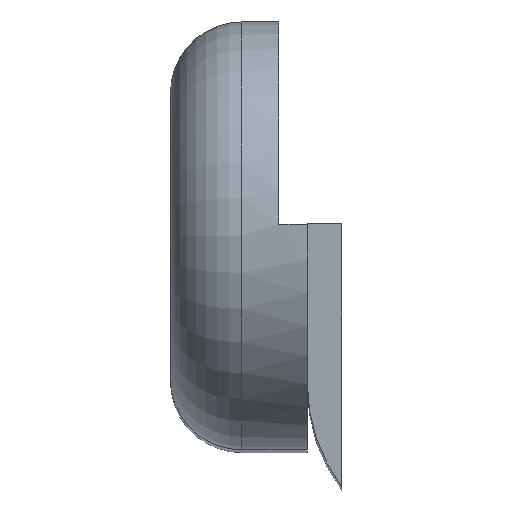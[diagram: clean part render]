
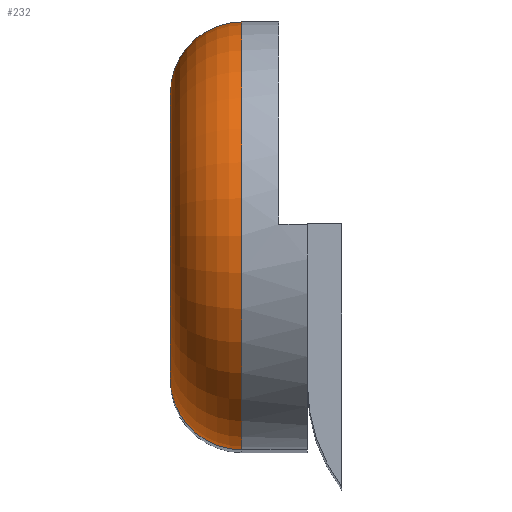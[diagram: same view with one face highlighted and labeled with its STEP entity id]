
A CAD part, top view. The second image highlights one B-rep face of the part: STEP entity #232.
In plain terms, the highlighted toroidal (fillet/blend) face has major radius 5 mm and minor radius 2.5 mm.
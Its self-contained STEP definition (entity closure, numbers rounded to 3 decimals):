
#21 = EDGE_CURVE('',#22,#24,#26,.T.);
#22 = VERTEX_POINT('',#23);
#23 = CARTESIAN_POINT('',(-44.3,7.5,28.5));
#24 = VERTEX_POINT('',#25);
#25 = CARTESIAN_POINT('',(-44.3,-7.5,28.5));
#26 = SURFACE_CURVE('',#27,(#32,#44),.PCURVE_S1.);
#27 = CIRCLE('',#28,7.5);
#28 = AXIS2_PLACEMENT_3D('',#29,#30,#31);
#29 = CARTESIAN_POINT('',(-44.3,0.,28.5));
#30 = DIRECTION('',(1.,0.,-0.));
#31 = DIRECTION('',(0.,1.,0.));
#32 = PCURVE('',#33,#38);
#33 = CYLINDRICAL_SURFACE('',#34,7.5);
#34 = AXIS2_PLACEMENT_3D('',#35,#36,#37);
#35 = CARTESIAN_POINT('',(-46.8,0.,28.5));
#36 = DIRECTION('',(-1.,-0.,0.));
#37 = DIRECTION('',(-0.,0.,-1.));
#38 = DEFINITIONAL_REPRESENTATION('',(#39),#43);
#39 = LINE('',#40,#41);
#40 = CARTESIAN_POINT('',(-1.571,-2.5));
#41 = VECTOR('',#42,1.);
#42 = DIRECTION('',(-1.,0.));
#43 = ( GEOMETRIC_REPRESENTATION_CONTEXT(2) 
PARAMETRIC_REPRESENTATION_CONTEXT() REPRESENTATION_CONTEXT('2D SPACE',''
  ) );
#44 = PCURVE('',#45,#50);
#45 = TOROIDAL_SURFACE('',#46,5.,2.5);
#46 = AXIS2_PLACEMENT_3D('',#47,#48,#49);
#47 = CARTESIAN_POINT('',(-44.3,0.,28.5));
#48 = DIRECTION('',(-1.,0.,0.));
#49 = DIRECTION('',(0.,1.,0.));
#50 = DEFINITIONAL_REPRESENTATION('',(#51),#55);
#51 = LINE('',#52,#53);
#52 = CARTESIAN_POINT('',(-0.,0.));
#53 = VECTOR('',#54,1.);
#54 = DIRECTION('',(-1.,0.));
#55 = ( GEOMETRIC_REPRESENTATION_CONTEXT(2) 
PARAMETRIC_REPRESENTATION_CONTEXT() REPRESENTATION_CONTEXT('2D SPACE',''
  ) );
#232 = ADVANCED_FACE('',(#233),#45,.T.);
#233 = FACE_BOUND('',#234,.F.);
#234 = EDGE_LOOP('',(#235,#262,#263,#290));
#235 = ORIENTED_EDGE('',*,*,#236,.F.);
#236 = EDGE_CURVE('',#22,#237,#239,.T.);
#237 = VERTEX_POINT('',#238);
#238 = CARTESIAN_POINT('',(-46.8,5.,28.5));
#239 = SURFACE_CURVE('',#240,(#245,#251),.PCURVE_S1.);
#240 = CIRCLE('',#241,2.5);
#241 = AXIS2_PLACEMENT_3D('',#242,#243,#244);
#242 = CARTESIAN_POINT('',(-44.3,5.,28.5));
#243 = DIRECTION('',(0.,-0.,1.));
#244 = DIRECTION('',(0.,1.,0.));
#245 = PCURVE('',#45,#246);
#246 = DEFINITIONAL_REPRESENTATION('',(#247),#250);
#247 = B_SPLINE_CURVE_WITH_KNOTS('',1,(#248,#249),.UNSPECIFIED.,.F.,.F.,
  (2,2),(0.,1.571),.PIECEWISE_BEZIER_KNOTS.);
#248 = CARTESIAN_POINT('',(0.,0.));
#249 = CARTESIAN_POINT('',(0.,1.571));
#250 = ( GEOMETRIC_REPRESENTATION_CONTEXT(2) 
PARAMETRIC_REPRESENTATION_CONTEXT() REPRESENTATION_CONTEXT('2D SPACE',''
  ) );
#251 = PCURVE('',#252,#257);
#252 = CYLINDRICAL_SURFACE('',#253,2.5);
#253 = AXIS2_PLACEMENT_3D('',#254,#255,#256);
#254 = CARTESIAN_POINT('',(-44.3,5.,-28.5));
#255 = DIRECTION('',(0.,0.,1.));
#256 = DIRECTION('',(0.,1.,0.));
#257 = DEFINITIONAL_REPRESENTATION('',(#258),#261);
#258 = B_SPLINE_CURVE_WITH_KNOTS('',1,(#259,#260),.UNSPECIFIED.,.F.,.F.,
  (2,2),(0.,1.571),.PIECEWISE_BEZIER_KNOTS.);
#259 = CARTESIAN_POINT('',(0.,57.));
#260 = CARTESIAN_POINT('',(1.571,57.));
#261 = ( GEOMETRIC_REPRESENTATION_CONTEXT(2) 
PARAMETRIC_REPRESENTATION_CONTEXT() REPRESENTATION_CONTEXT('2D SPACE',''
  ) );
#262 = ORIENTED_EDGE('',*,*,#21,.T.);
#263 = ORIENTED_EDGE('',*,*,#264,.T.);
#264 = EDGE_CURVE('',#24,#265,#267,.T.);
#265 = VERTEX_POINT('',#266);
#266 = CARTESIAN_POINT('',(-46.8,-5.,28.5));
#267 = SURFACE_CURVE('',#268,(#273,#279),.PCURVE_S1.);
#268 = CIRCLE('',#269,2.5);
#269 = AXIS2_PLACEMENT_3D('',#270,#271,#272);
#270 = CARTESIAN_POINT('',(-44.3,-5.,28.5));
#271 = DIRECTION('',(-0.,0.,-1.));
#272 = DIRECTION('',(-0.,-1.,0.));
#273 = PCURVE('',#45,#274);
#274 = DEFINITIONAL_REPRESENTATION('',(#275),#278);
#275 = B_SPLINE_CURVE_WITH_KNOTS('',1,(#276,#277),.UNSPECIFIED.,.F.,.F.,
  (2,2),(0.,1.571),.PIECEWISE_BEZIER_KNOTS.);
#276 = CARTESIAN_POINT('',(-3.142,0.));
#277 = CARTESIAN_POINT('',(-3.142,1.571));
#278 = ( GEOMETRIC_REPRESENTATION_CONTEXT(2) 
PARAMETRIC_REPRESENTATION_CONTEXT() REPRESENTATION_CONTEXT('2D SPACE',''
  ) );
#279 = PCURVE('',#280,#285);
#280 = CYLINDRICAL_SURFACE('',#281,2.5);
#281 = AXIS2_PLACEMENT_3D('',#282,#283,#284);
#282 = CARTESIAN_POINT('',(-44.3,-5.,28.5));
#283 = DIRECTION('',(0.,0.,-1.));
#284 = DIRECTION('',(0.,-1.,0.));
#285 = DEFINITIONAL_REPRESENTATION('',(#286),#289);
#286 = B_SPLINE_CURVE_WITH_KNOTS('',1,(#287,#288),.UNSPECIFIED.,.F.,.F.,
  (2,2),(0.,1.571),.PIECEWISE_BEZIER_KNOTS.);
#287 = CARTESIAN_POINT('',(0.,0.));
#288 = CARTESIAN_POINT('',(1.571,0.));
#289 = ( GEOMETRIC_REPRESENTATION_CONTEXT(2) 
PARAMETRIC_REPRESENTATION_CONTEXT() REPRESENTATION_CONTEXT('2D SPACE',''
  ) );
#290 = ORIENTED_EDGE('',*,*,#291,.F.);
#291 = EDGE_CURVE('',#237,#265,#292,.T.);
#292 = SURFACE_CURVE('',#293,(#298,#305),.PCURVE_S1.);
#293 = CIRCLE('',#294,5.);
#294 = AXIS2_PLACEMENT_3D('',#295,#296,#297);
#295 = CARTESIAN_POINT('',(-46.8,0.,28.5));
#296 = DIRECTION('',(1.,0.,-0.));
#297 = DIRECTION('',(0.,1.,0.));
#298 = PCURVE('',#45,#299);
#299 = DEFINITIONAL_REPRESENTATION('',(#300),#304);
#300 = LINE('',#301,#302);
#301 = CARTESIAN_POINT('',(-0.,1.571));
#302 = VECTOR('',#303,1.);
#303 = DIRECTION('',(-1.,0.));
#304 = ( GEOMETRIC_REPRESENTATION_CONTEXT(2) 
PARAMETRIC_REPRESENTATION_CONTEXT() REPRESENTATION_CONTEXT('2D SPACE',''
  ) );
#305 = PCURVE('',#306,#311);
#306 = PLANE('',#307);
#307 = AXIS2_PLACEMENT_3D('',#308,#309,#310);
#308 = CARTESIAN_POINT('',(-46.8,0.,0.));
#309 = DIRECTION('',(-1.,0.,0.));
#310 = DIRECTION('',(0.,0.,1.));
#311 = DEFINITIONAL_REPRESENTATION('',(#312),#320);
#312 = ( BOUNDED_CURVE() B_SPLINE_CURVE(2,(#313,#314,#315,#316,#317,#318
,#319),.UNSPECIFIED.,.T.,.F.) B_SPLINE_CURVE_WITH_KNOTS((1,2,2,2,2,1),(
    -2.094,0.,2.094,4.189,6.283,
8.378),.UNSPECIFIED.) CURVE() GEOMETRIC_REPRESENTATION_ITEM() 
RATIONAL_B_SPLINE_CURVE((1.,0.5,1.,0.5,1.,0.5,1.)) REPRESENTATION_ITEM(
  '') );
#313 = CARTESIAN_POINT('',(28.5,5.));
#314 = CARTESIAN_POINT('',(37.16,5.));
#315 = CARTESIAN_POINT('',(32.83,-2.5));
#316 = CARTESIAN_POINT('',(28.5,-10.));
#317 = CARTESIAN_POINT('',(24.17,-2.5));
#318 = CARTESIAN_POINT('',(19.84,5.));
#319 = CARTESIAN_POINT('',(28.5,5.));
#320 = ( GEOMETRIC_REPRESENTATION_CONTEXT(2) 
PARAMETRIC_REPRESENTATION_CONTEXT() REPRESENTATION_CONTEXT('2D SPACE',''
  ) );
